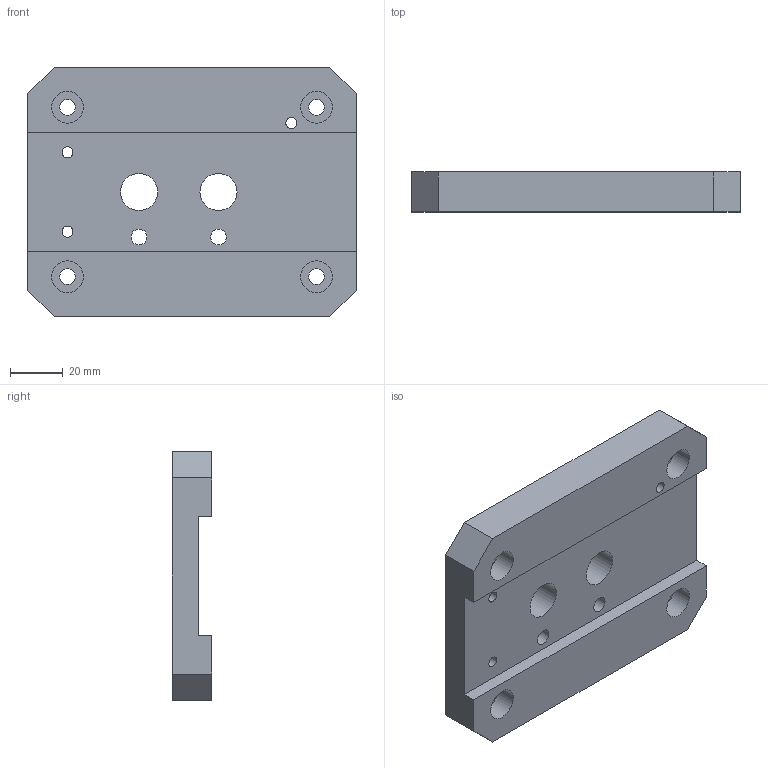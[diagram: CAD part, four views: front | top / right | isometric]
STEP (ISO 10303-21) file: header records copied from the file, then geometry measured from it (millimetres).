
FILE_DESCRIPTION(/* description */ (''),/* implementation_level */ '2;1');
FILE_NAME(/* name */ 'C:\Users\woori\Desktop\600605E1011\600605E1011-베이스.stp',/* time_stamp */ '2020-06-20T11:17:41+09:00',/* author */ ('woori'),/* organization */ (''),/* preprocessor_version */ 'ST-DEVELOPER v16.1',/* originating_system */ 'Autodesk Inventor 2016',/* authorisation */ '');
FILE_SCHEMA (('AUTOMOTIVE_DESIGN { 1 0 10303 214 3 1 1 }'));
Length unit declared in the file: millimetre
Products named in the file (1): 600605E1011
Bounding box: 124 x 15 x 94 mm (x, y, z)
Volume: 135415.2 mm3; surface area: 32300.3 mm2
Topology: 1 solids, 1 shells, 33 faces, 84 edges, 57 vertices
Faces by surface type: plane 18, cylinder 15
Full cylindrical faces by diameter (mm): 4.134 x3, 6 x6, 12 x4, 14 x2
Entity records: 978 total; most frequent: DIRECTION 164, CARTESIAN_POINT 154, ORIENTED_EDGE 132, EDGE_LOOP 74, EDGE_CURVE 66, AXIS2_PLACEMENT_3D 64, VERTEX_POINT 54, FACE_BOUND 41
